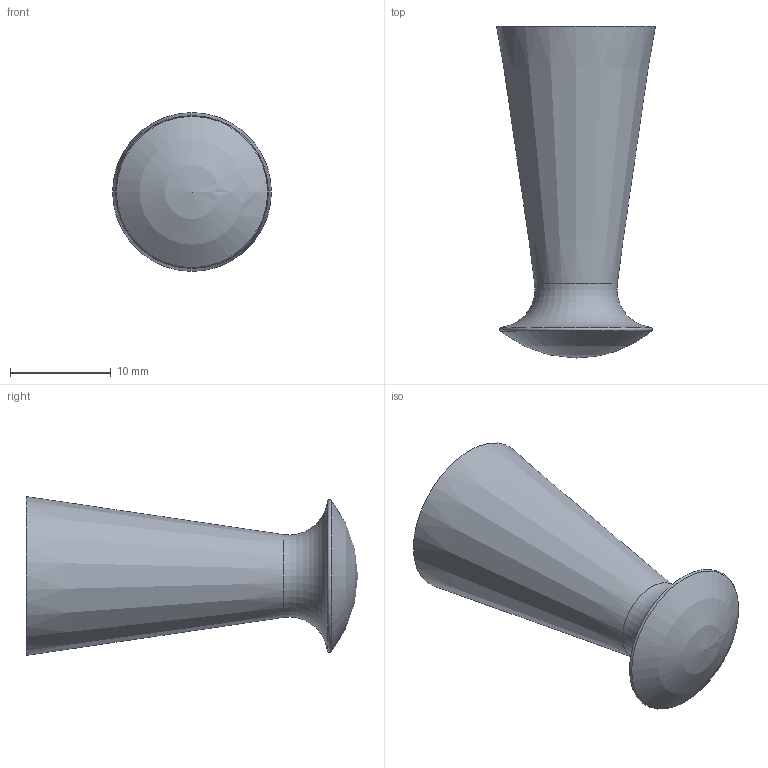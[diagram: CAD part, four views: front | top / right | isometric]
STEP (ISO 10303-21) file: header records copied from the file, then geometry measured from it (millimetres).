
FILE_DESCRIPTION(/* description */ (''),/* implementation_level */ '2;1');
FILE_NAME(/* name */ '4111135',/* time_stamp */ '2019-08-26T09:26:45+08:00',/* author */ (''),/* organization */ (''),/* preprocessor_version */ 'ST-DEVELOPER v9',/* originating_system */ 'UGS - NX 4.0',/* authorisation */ '');
FILE_SCHEMA (('CONFIG_CONTROL_DESIGN'));
Length unit declared in the file: millimetre
Products named in the file (1): w335DEEtk4c
Bounding box: 15.8 x 33 x 15.8 mm (x, y, z)
Volume: 2845.6 mm3; surface area: 2420.3 mm2
Topology: 2 solids, 2 shells, 12 faces, 23 edges, 15 vertices
Faces by surface type: plane 4, cylinder 3, cone 2, torus 2, sphere 1
Full cylindrical faces by diameter (mm): 5 x1, 10 x2
Entity records: 322 total; most frequent: DIRECTION 48, CARTESIAN_POINT 35, AXIS2_PLACEMENT_3D 24, EDGE_LOOP 22, ORIENTED_EDGE 22, FACE_BOUND 15, ADVANCED_FACE 12, VERTEX_POINT 11
